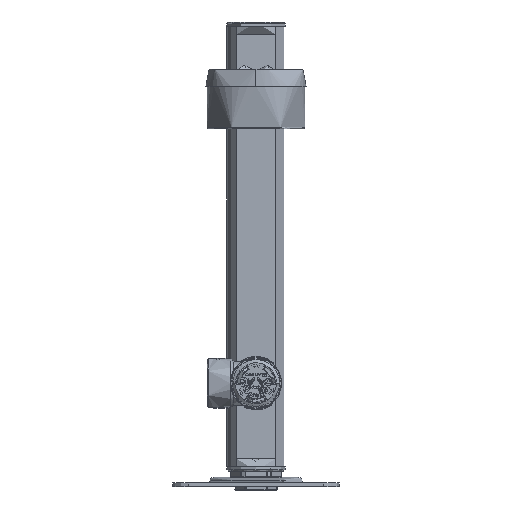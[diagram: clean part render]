
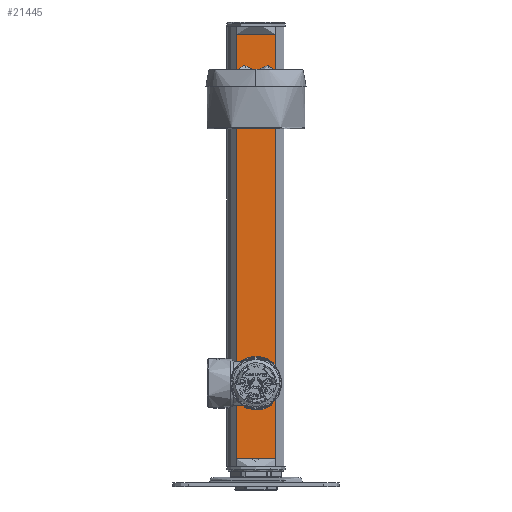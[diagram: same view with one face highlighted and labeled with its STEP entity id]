
A CAD part, front view. The second image highlights one B-rep face of the part: STEP entity #21445.
In plain terms, the highlighted planar face has unit normal (0, 1, 0).
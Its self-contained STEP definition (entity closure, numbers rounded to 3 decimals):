
#3810 = ORIENTED_EDGE ( 'NONE', *, *, #53009, .T. ) ;
#4791 = VERTEX_POINT ( 'NONE', #20159 ) ;
#5280 = AXIS2_PLACEMENT_3D ( 'NONE', #167789, #140277, #5720 ) ;
#5720 = DIRECTION ( 'NONE',  ( 0., 0., 1. ) ) ;
#8418 = FACE_BOUND ( 'NONE', #72100, .T. ) ;
#8992 = EDGE_CURVE ( 'NONE', #164146, #69682, #174432, .T. ) ;
#10452 = EDGE_CURVE ( 'NONE', #124211, #39575, #47643, .T. ) ;
#13720 = B_SPLINE_CURVE_WITH_KNOTS ( 'NONE', 3,
 ( #143829, #79115, #25177, #39354 ),
 .UNSPECIFIED., .F., .F.,
 ( 4, 4 ),
 ( 0., 1. ),
 .UNSPECIFIED. ) ;
#20159 = CARTESIAN_POINT ( 'NONE',  ( 12.2, -19.5, 275.19 ) ) ;
#21445 = ADVANCED_FACE ( 'NONE', ( #65135, #8418, #119115 ), #47449, .T. ) ;
#21896 = DIRECTION ( 'NONE',  ( 0., 0., 1. ) ) ;
#22804 = CARTESIAN_POINT ( 'NONE',  ( -4.067, -19.5, -0.27 ) ) ;
#25177 = CARTESIAN_POINT ( 'NONE',  ( 4.067, -19.5, 280.27 ) ) ;
#30693 = EDGE_CURVE ( 'NONE', #39575, #115521, #126743, .T. ) ;
#31405 = LINE ( 'NONE', #33154, #136531 ) ;
#33154 = CARTESIAN_POINT ( 'NONE',  ( -12.2, -19.5, 280. ) ) ;
#34324 = DIRECTION ( 'NONE',  ( 0., 1., 0. ) ) ;
#36305 = EDGE_CURVE ( 'NONE', #170450, #141687, #133479, .T. ) ;
#39354 = CARTESIAN_POINT ( 'NONE',  ( 12.2, -19.5, 275.19 ) ) ;
#39575 = VERTEX_POINT ( 'NONE', #135346 ) ;
#43655 = ORIENTED_EDGE ( 'NONE', *, *, #8992, .F. ) ;
#43718 = CARTESIAN_POINT ( 'NONE',  ( 12.2, -19.5, 4.81 ) ) ;
#46262 = EDGE_CURVE ( 'NONE', #100797, #4791, #13720, .T. ) ;
#47232 = DIRECTION ( 'NONE',  ( 0., 1., 0. ) ) ;
#47449 = PLANE ( 'NONE',  #70489 ) ;
#47643 = CIRCLE ( 'NONE', #5280, 10. ) ;
#51610 = CARTESIAN_POINT ( 'NONE',  ( -12.2, -19.5, 275.19 ) ) ;
#52161 = DIRECTION ( 'NONE',  ( 0., 1., 0. ) ) ;
#52763 = EDGE_LOOP ( 'NONE', ( #61086, #109682, #118255 ) ) ;
#53009 = EDGE_CURVE ( 'NONE', #141687, #100797, #31405, .T. ) ;
#56372 = CARTESIAN_POINT ( 'NONE',  ( 0., -19.5, 223. ) ) ;
#58405 = CARTESIAN_POINT ( 'NONE',  ( -12.2, -19.5, 4.81 ) ) ;
#60564 = DIRECTION ( 'NONE',  ( 0., 0., 1. ) ) ;
#61086 = ORIENTED_EDGE ( 'NONE', *, *, #10452, .F. ) ;
#61613 = CARTESIAN_POINT ( 'NONE',  ( 0., -19.5, 63. ) ) ;
#63203 = AXIS2_PLACEMENT_3D ( 'NONE', #111476, #97272, #69893 ) ;
#65135 = FACE_OUTER_BOUND ( 'NONE', #154470, .T. ) ;
#65492 = VERTEX_POINT ( 'NONE', #109810 ) ;
#66498 = CARTESIAN_POINT ( 'NONE',  ( 10., -19.5, 53. ) ) ;
#69682 = VERTEX_POINT ( 'NONE', #154497 ) ;
#69893 = DIRECTION ( 'NONE',  ( 0., 0., 1. ) ) ;
#70489 = AXIS2_PLACEMENT_3D ( 'NONE', #120848, #174009, #92448 ) ;
#72095 = ORIENTED_EDGE ( 'NONE', *, *, #81698, .T. ) ;
#72100 = EDGE_LOOP ( 'NONE', ( #88121, #121284, #43655 ) ) ;
#74599 = DIRECTION ( 'NONE',  ( 0., 1., 0. ) ) ;
#76775 = CARTESIAN_POINT ( 'NONE',  ( -12.2, -19.5, 4.81 ) ) ;
#78508 = DIRECTION ( 'NONE',  ( 0., 0., -1. ) ) ;
#78685 = CARTESIAN_POINT ( 'NONE',  ( 0., -19.5, 53. ) ) ;
#79115 = CARTESIAN_POINT ( 'NONE',  ( -4.067, -19.5, 280.27 ) ) ;
#79370 = CARTESIAN_POINT ( 'NONE',  ( 12.2, -19.5, 280. ) ) ;
#81698 = EDGE_CURVE ( 'NONE', #4791, #170450, #144965, .T. ) ;
#88121 = ORIENTED_EDGE ( 'NONE', *, *, #128415, .F. ) ;
#89317 = DIRECTION ( 'NONE',  ( 0., 0., 1. ) ) ;
#89591 = CARTESIAN_POINT ( 'NONE',  ( 0., -19.5, 233. ) ) ;
#92448 = DIRECTION ( 'NONE',  ( 0., 0., 1. ) ) ;
#97272 = DIRECTION ( 'NONE',  ( 0., 1., 0. ) ) ;
#100259 = CARTESIAN_POINT ( 'NONE',  ( 0., -19.5, 53. ) ) ;
#100797 = VERTEX_POINT ( 'NONE', #51610 ) ;
#101508 = CARTESIAN_POINT ( 'NONE',  ( 0., -19.5, 233. ) ) ;
#109682 = ORIENTED_EDGE ( 'NONE', *, *, #113637, .F. ) ;
#109810 = CARTESIAN_POINT ( 'NONE',  ( 10., -19.5, 233. ) ) ;
#111476 = CARTESIAN_POINT ( 'NONE',  ( 0., -19.5, 233. ) ) ;
#113637 = EDGE_CURVE ( 'NONE', #115521, #124211, #173467, .T. ) ;
#114113 = CIRCLE ( 'NONE', #63203, 10. ) ;
#114431 = AXIS2_PLACEMENT_3D ( 'NONE', #78685, #52161, #89317 ) ;
#115521 = VERTEX_POINT ( 'NONE', #61613 ) ;
#118255 = ORIENTED_EDGE ( 'NONE', *, *, #30693, .F. ) ;
#119115 = FACE_BOUND ( 'NONE', #52763, .T. ) ;
#120848 = CARTESIAN_POINT ( 'NONE',  ( -12.5, -19.5, 280. ) ) ;
#121284 = ORIENTED_EDGE ( 'NONE', *, *, #140182, .F. ) ;
#124211 = VERTEX_POINT ( 'NONE', #66498 ) ;
#126743 = CIRCLE ( 'NONE', #169132, 10. ) ;
#128415 = EDGE_CURVE ( 'NONE', #65492, #164146, #114113, .T. ) ;
#133479 = B_SPLINE_CURVE_WITH_KNOTS ( 'NONE', 3,
 ( #170723, #144111, #22804, #76775 ),
 .UNSPECIFIED., .F., .F.,
 ( 4, 4 ),
 ( 0., 1. ),
 .UNSPECIFIED. ) ;
#135346 = CARTESIAN_POINT ( 'NONE',  ( 0., -19.5, 43. ) ) ;
#136531 = VECTOR ( 'NONE', #169552, 1000. ) ;
#140182 = EDGE_CURVE ( 'NONE', #69682, #65492, #143016, .T. ) ;
#140277 = DIRECTION ( 'NONE',  ( 0., 1., 0. ) ) ;
#141687 = VERTEX_POINT ( 'NONE', #58405 ) ;
#141901 = DIRECTION ( 'NONE',  ( 0., 0., 1. ) ) ;
#143016 = CIRCLE ( 'NONE', #162850, 10. ) ;
#143829 = CARTESIAN_POINT ( 'NONE',  ( -12.2, -19.5, 275.19 ) ) ;
#144111 = CARTESIAN_POINT ( 'NONE',  ( 4.067, -19.5, -0.27 ) ) ;
#144965 = LINE ( 'NONE', #79370, #157429 ) ;
#147662 = ORIENTED_EDGE ( 'NONE', *, *, #46262, .T. ) ;
#154464 = ORIENTED_EDGE ( 'NONE', *, *, #36305, .T. ) ;
#154470 = EDGE_LOOP ( 'NONE', ( #72095, #154464, #3810, #147662 ) ) ;
#154497 = CARTESIAN_POINT ( 'NONE',  ( 0., -19.5, 243. ) ) ;
#157429 = VECTOR ( 'NONE', #78508, 1000. ) ;
#162850 = AXIS2_PLACEMENT_3D ( 'NONE', #89591, #74599, #141901 ) ;
#164146 = VERTEX_POINT ( 'NONE', #56372 ) ;
#167789 = CARTESIAN_POINT ( 'NONE',  ( 0., -19.5, 53. ) ) ;
#169132 = AXIS2_PLACEMENT_3D ( 'NONE', #100259, #47232, #60564 ) ;
#169552 = DIRECTION ( 'NONE',  ( 0., 0., 1. ) ) ;
#170450 = VERTEX_POINT ( 'NONE', #43718 ) ;
#170723 = CARTESIAN_POINT ( 'NONE',  ( 12.2, -19.5, 4.81 ) ) ;
#171520 = AXIS2_PLACEMENT_3D ( 'NONE', #101508, #34324, #21896 ) ;
#173467 = CIRCLE ( 'NONE', #114431, 10. ) ;
#174009 = DIRECTION ( 'NONE',  ( 0., 1., 0. ) ) ;
#174432 = CIRCLE ( 'NONE', #171520, 10. ) ;
